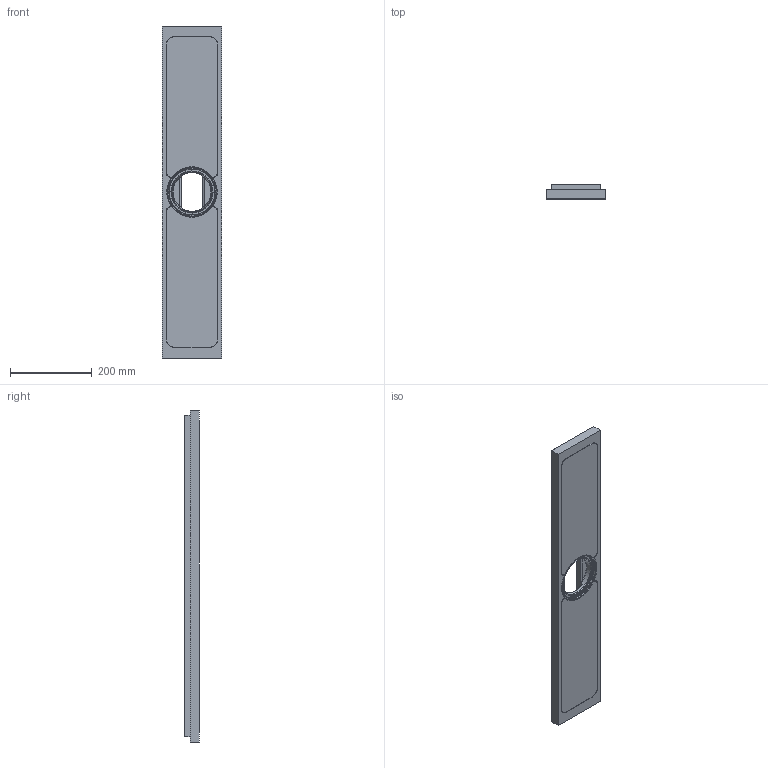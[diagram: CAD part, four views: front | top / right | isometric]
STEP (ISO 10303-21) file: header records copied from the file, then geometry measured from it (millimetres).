
FILE_DESCRIPTION(/* description */ ('Fertigteil'),/* implementation_level */ '2;1');
FILE_NAME(/* name */ 'C:\Users\fuser-vault-job\AppData\Local\Temp\MuM_uku1dwyl.tnd\D-000000779.iam_.step',/* time_stamp */ '2022-07-18T17:06:27+02:00',/* author */ ('pd'),/* organization */ (''),/* preprocessor_version */ 'ST-DEVELOPER v18.1',/* originating_system */ 'Autodesk Inventor 2020',/* authorisation */ '');
FILE_SCHEMA (('AUTOMOTIVE_DESIGN { 1 0 10303 214 3 1 1 }'));
Products named in the file (4): 075100056; 075100056_1; 075100056_2; D-000000767
Assembly tree (4 placements, depth 2):
  075100056
    075100056_1
    075100056_2  x2
    D-000000767
Bounding box: 145.7 x 35 x 812.8 mm (x, y, z)
Volume: 2567385.2 mm3; surface area: 728118.5 mm2
Topology: 6 solids, 6 shells, 2620 faces, 6288 edges, 3614 vertices
Faces by surface type: cylinder 1042, bspline 737, plane 478, sphere 232, torus 73, cone 58
Full cylindrical faces by diameter (mm): 8 x3
Entity records: 151031 total; most frequent: CARTESIAN_POINT 92139, ORIENTED_EDGE 12244, DIRECTION 11383, EDGE_CURVE 6122, AXIS2_PLACEMENT_3D 4522, VERTEX_POINT 3594, EDGE_LOOP 2688, FACE_OUTER_BOUND 2608
